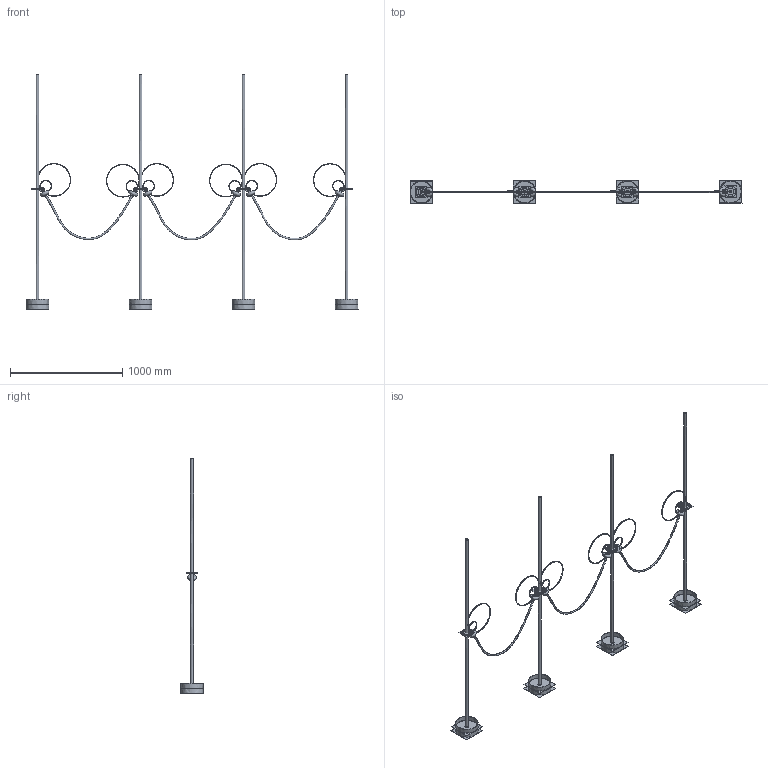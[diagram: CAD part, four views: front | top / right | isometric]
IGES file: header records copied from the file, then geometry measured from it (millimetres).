
Global section: file name: C:\Users\utente\Desktop\DANESE RG\3D Danese\BINCAN TRANSENNA\BINCAN TRANSENNA.igs; native system: Rhinoceros ( Mar  9 2011 ); preprocessor: Trout Lake IGES 012 Mar  9 2011; date: 170517.172051; units: millimetre
Bounding box: 2956.69 x 206.34 x 2088 mm (x, y, z)
Surface area: 3102154 mm2 (no closed solid volume)
Topology: 0 solids, 0 shells, 564 faces, 2568 edges, 2362 vertices
Faces by surface type: bspline 564
